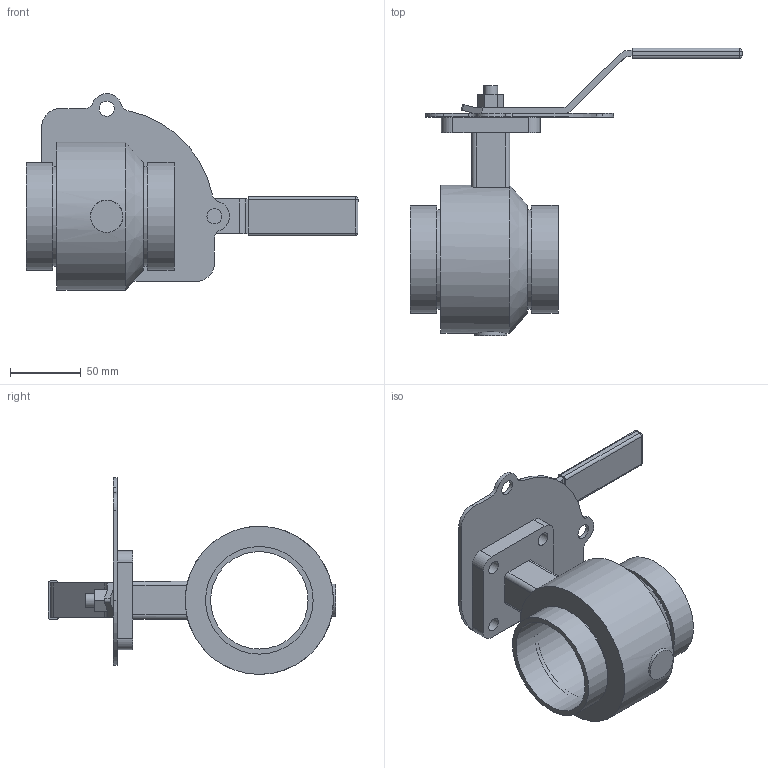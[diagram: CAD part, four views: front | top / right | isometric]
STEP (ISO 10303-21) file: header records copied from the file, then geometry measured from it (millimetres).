
FILE_DESCRIPTION(/* description */ ('VIC STRENGTHIN 300 MASTERSEAL BUTTERFLY VALVE E461 w/LH','CAx-IF Rec.Pracs.---Representation and Presentation of Product Manufacturing Information (PMI)---4.0---2014-10-13'),/* implementation_level */ '2;1');
FILE_NAME(/* name */ 'C:\Users\Vjadhav\AppData\Roaming\Autodesk\ApplicationPlugins\Back Up\Victaulic_SS-StrengThin 100_Valve Butterfly Lever Handle_Series E461 (ST1)\Victaulic_SS-StrengThin 100_Valve Butterfly Lever Handle_02.5 (76.1) (65).stp',/* time_stamp */ '2020-07-07T16:33:45+05:00',/* author */ ('jbrannon'),/* organization */ ('Victaulic'),/* preprocessor_version */ 'ST-DEVELOPER v17.2',/* originating_system */ 'Autodesk Inventor 2019',/* authorisation */ '');
FILE_SCHEMA (('AP242_MANAGED_MODEL_BASED_3D_ENGINEERING_MIM_LF { 1 0 10303 442 1 1 4 }'));
Length unit declared in the file: inch
Products named in the file (4): E461-02.5 (76.1); E461-02.5 (76.1)_1; E461-02.0; E461-02.5
Assembly tree (3 placements, depth 2):
  E461-02.5 (76.1)
    E461-02.5 (76.1)_1
    E461-02.0
    E461-02.5
Bounding box: 234.94 x 203.46 x 139.31 mm (x, y, z)
Volume: 442055.9 mm3; surface area: 121560.5 mm2
Topology: 3 solids, 3 shells, 107 faces, 273 edges, 181 vertices
Faces by surface type: cylinder 52, plane 50, sphere 4, cone 1
Full cylindrical faces by diameter (mm): 9.652 x10, 10.668 x2, 18.288 x1, 22.86 x1, 54.102 x1, 68.986 x1, 70.358 x2, 76.2 x2, 104.902 x1
Entity records: 3675 total; most frequent: CARTESIAN_POINT 639, DIRECTION 609, ORIENTED_EDGE 546, EDGE_CURVE 273, AXIS2_PLACEMENT_3D 229, VERTEX_POINT 181, LINE 151, VECTOR 151
